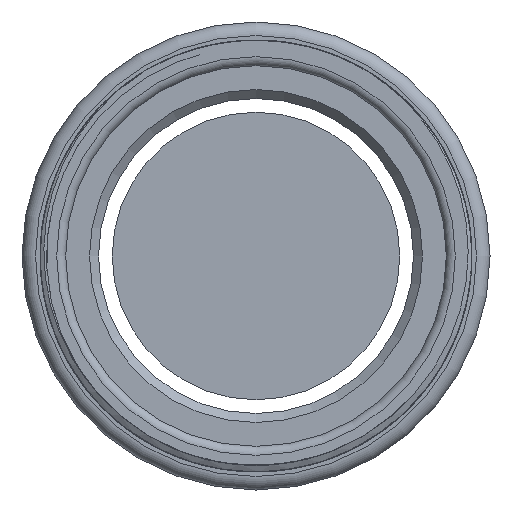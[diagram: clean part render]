
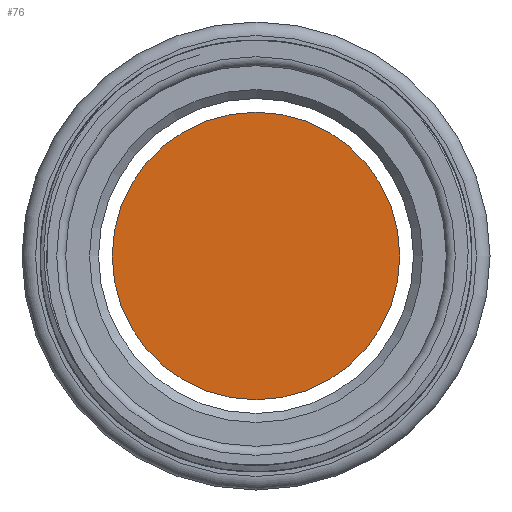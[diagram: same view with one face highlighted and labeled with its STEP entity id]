
A CAD part, front view. The second image highlights one B-rep face of the part: STEP entity #76.
In plain terms, the highlighted planar face has unit normal (0, -1, 0).
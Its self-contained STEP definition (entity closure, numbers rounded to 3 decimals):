
#61=PLANE('',#327);
#69=FACE_OUTER_BOUND('',#145,.T.);
#76=ADVANCED_FACE('',(#69),#61,.T.);
#145=EDGE_LOOP('',(#187));
#187=ORIENTED_EDGE('',*,*,#271,.T.);
#245=VERTEX_POINT('',#461);
#271=EDGE_CURVE('',#245,#245,#301,.T.);
#301=CIRCLE('',#324,15.975);
#324=AXIS2_PLACEMENT_3D('',#460,#371,#372);
#327=AXIS2_PLACEMENT_3D('',#464,#377,#378);
#371=DIRECTION('',(0.,-1.,0.));
#372=DIRECTION('',(1.,0.,0.));
#377=DIRECTION('',(0.,-1.,0.));
#378=DIRECTION('',(0.,0.,-1.));
#460=CARTESIAN_POINT('',(0.,-10.,0.));
#461=CARTESIAN_POINT('',(15.975,-10.,0.));
#464=CARTESIAN_POINT('',(0.,-10.,0.));
